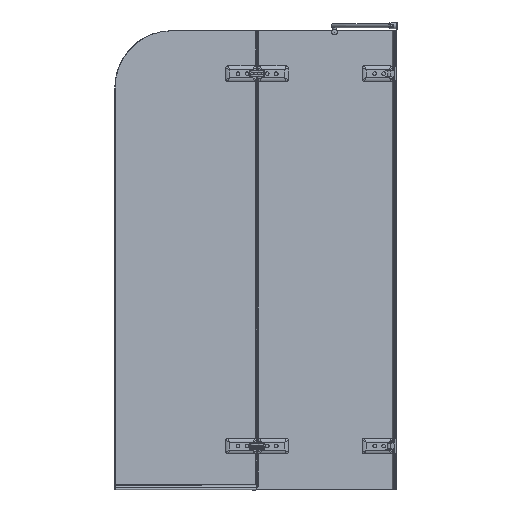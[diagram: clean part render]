
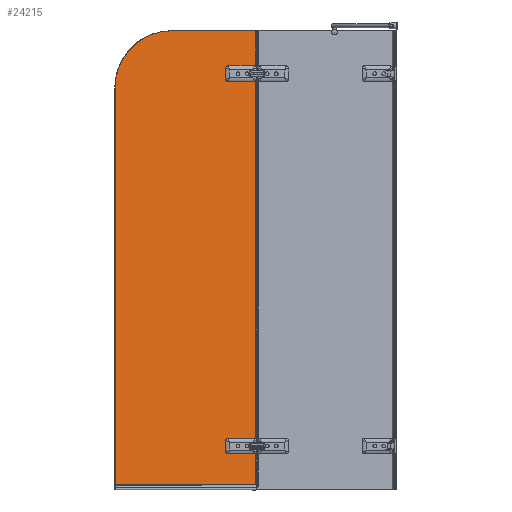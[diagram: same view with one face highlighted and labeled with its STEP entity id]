
A CAD part, left-side view. The second image highlights one B-rep face of the part: STEP entity #24215.
In plain terms, the highlighted planar face has unit normal (-0.985, -0.174, 0).
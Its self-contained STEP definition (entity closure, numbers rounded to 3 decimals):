
#850=PLANE($,#26289);
#2364=LINE($,#53870,#4467);
#2365=LINE($,#53876,#4468);
#2816=LINE($,#56373,#4919);
#2903=LINE($,#56647,#5006);
#2954=LINE($,#56814,#5057);
#2955=LINE($,#56818,#5058);
#2956=LINE($,#56821,#5059);
#2957=LINE($,#56823,#5060);
#2958=LINE($,#56827,#5061);
#2959=LINE($,#56830,#5062);
#2960=LINE($,#56832,#5063);
#2961=LINE($,#56835,#5064);
#4467=VECTOR($,#30647,1262.);
#4468=VECTOR($,#30654,116.4);
#4919=VECTOR($,#31973,131.);
#5006=VECTOR($,#32208,497.226);
#5057=VECTOR($,#32377,29.226);
#5058=VECTOR($,#32380,18.);
#5059=VECTOR($,#32383,30.747);
#5060=VECTOR($,#32384,30.747);
#5061=VECTOR($,#32387,18.);
#5062=VECTOR($,#32390,30.747);
#5063=VECTOR($,#32391,298.747);
#5064=VECTOR($,#32394,1385.4);
#5683=FACE_BOUND($,#8189,.T.);
#5684=FACE_BOUND($,#8190,.T.);
#5685=FACE_BOUND($,#8191,.T.);
#8189=EDGE_LOOP($,(#20943));
#8190=EDGE_LOOP($,(#20944));
#8191=EDGE_LOOP($,(#20945,#20946,#20947,#20948,#20949,#20950,#20951,#20952,
#20953,#20954,#20955,#20956,#20957,#20958,#20959,#20960,#20961));
#8864=CIRCLE($,#25534,6.5);
#9029=CIRCLE($,#25963,6.5);
#9152=CIRCLE($,#26290,10.);
#9153=CIRCLE($,#26291,10.);
#9154=CIRCLE($,#26292,10.);
#9155=CIRCLE($,#26293,10.);
#9156=CIRCLE($,#26294,200.);
#10616=VERTEX_POINT($,#52870);
#10784=VERTEX_POINT($,#53867);
#10785=VERTEX_POINT($,#53869);
#10786=VERTEX_POINT($,#53873);
#10787=VERTEX_POINT($,#53875);
#11043=VERTEX_POINT($,#55272);
#11223=VERTEX_POINT($,#56370);
#11224=VERTEX_POINT($,#56372);
#11297=VERTEX_POINT($,#56646);
#11331=VERTEX_POINT($,#56813);
#11332=VERTEX_POINT($,#56815);
#11333=VERTEX_POINT($,#56817);
#11334=VERTEX_POINT($,#56819);
#11335=VERTEX_POINT($,#56822);
#11336=VERTEX_POINT($,#56824);
#11337=VERTEX_POINT($,#56826);
#11338=VERTEX_POINT($,#56828);
#11339=VERTEX_POINT($,#56831);
#11340=VERTEX_POINT($,#56833);
#13454=EDGE_CURVE($,#10616,#10616,#8864,.T.);
#13726=EDGE_CURVE($,#10784,#10785,#2364,.T.);
#13729=EDGE_CURVE($,#10786,#10787,#2365,.T.);
#14133=EDGE_CURVE($,#11043,#11043,#9029,.T.);
#14421=EDGE_CURVE($,#11223,#11224,#2816,.T.);
#14539=EDGE_CURVE($,#11297,#10787,#2903,.T.);
#14615=EDGE_CURVE($,#11331,#10786,#2954,.T.);
#14616=EDGE_CURVE($,#11331,#11332,#9152,.T.);
#14617=EDGE_CURVE($,#11333,#11332,#2955,.T.);
#14618=EDGE_CURVE($,#11333,#11334,#9153,.T.);
#14619=EDGE_CURVE($,#10785,#11334,#2956,.T.);
#14620=EDGE_CURVE($,#11335,#10784,#2957,.T.);
#14621=EDGE_CURVE($,#11335,#11336,#9154,.T.);
#14622=EDGE_CURVE($,#11337,#11336,#2958,.T.);
#14623=EDGE_CURVE($,#11337,#11338,#9155,.T.);
#14624=EDGE_CURVE($,#11224,#11338,#2959,.T.);
#14625=EDGE_CURVE($,#11223,#11339,#2960,.T.);
#14626=EDGE_CURVE($,#11339,#11340,#9156,.T.);
#14627=EDGE_CURVE($,#11297,#11340,#2961,.T.);
#20943=ORIENTED_EDGE($,*,*,#13454,.F.);
#20944=ORIENTED_EDGE($,*,*,#14133,.F.);
#20945=ORIENTED_EDGE($,*,*,#14539,.T.);
#20946=ORIENTED_EDGE($,*,*,#13729,.F.);
#20947=ORIENTED_EDGE($,*,*,#14615,.F.);
#20948=ORIENTED_EDGE($,*,*,#14616,.T.);
#20949=ORIENTED_EDGE($,*,*,#14617,.F.);
#20950=ORIENTED_EDGE($,*,*,#14618,.T.);
#20951=ORIENTED_EDGE($,*,*,#14619,.F.);
#20952=ORIENTED_EDGE($,*,*,#13726,.F.);
#20953=ORIENTED_EDGE($,*,*,#14620,.F.);
#20954=ORIENTED_EDGE($,*,*,#14621,.T.);
#20955=ORIENTED_EDGE($,*,*,#14622,.F.);
#20956=ORIENTED_EDGE($,*,*,#14623,.T.);
#20957=ORIENTED_EDGE($,*,*,#14624,.F.);
#20958=ORIENTED_EDGE($,*,*,#14421,.F.);
#20959=ORIENTED_EDGE($,*,*,#14625,.T.);
#20960=ORIENTED_EDGE($,*,*,#14626,.T.);
#20961=ORIENTED_EDGE($,*,*,#14627,.F.);
#24215=ADVANCED_FACE($,(#5683,#5684,#5685),#850,.F.);
#25534=AXIS2_PLACEMENT_3D($,#52871,#30104,#30105);
#25963=AXIS2_PLACEMENT_3D($,#55273,#31404,#31405);
#26289=AXIS2_PLACEMENT_3D($,#56812,#32375,#32376);
#26290=AXIS2_PLACEMENT_3D($,#56816,#32378,#32379);
#26291=AXIS2_PLACEMENT_3D($,#56820,#32381,#32382);
#26292=AXIS2_PLACEMENT_3D($,#56825,#32385,#32386);
#26293=AXIS2_PLACEMENT_3D($,#56829,#32388,#32389);
#26294=AXIS2_PLACEMENT_3D($,#56834,#32392,#32393);
#30104=DIRECTION('center_axis',(-0.985,-0.174,0.));
#30105=DIRECTION('ref_axis',(0.174,-0.985,0.));
#30647=DIRECTION($,(0.,0.,-1.));
#30654=DIRECTION($,(0.,0.,-1.));
#31404=DIRECTION('center_axis',(-0.985,-0.174,0.));
#31405=DIRECTION('ref_axis',(0.174,-0.985,0.));
#31973=DIRECTION($,(0.,0.,-1.));
#32208=DIRECTION($,(0.174,-0.985,0.));
#32375=DIRECTION('center_axis',(0.985,0.174,0.));
#32376=DIRECTION('ref_axis',(-0.174,0.985,0.));
#32377=DIRECTION($,(0.174,-0.985,0.));
#32378=DIRECTION('center_axis',(0.985,0.174,0.));
#32379=DIRECTION('ref_axis',(-0.123,0.696,-0.707));
#32380=DIRECTION($,(0.,0.,-1.));
#32381=DIRECTION('center_axis',(0.985,0.174,0.));
#32382=DIRECTION('ref_axis',(-0.123,0.696,0.707));
#32383=DIRECTION($,(-0.174,0.985,0.));
#32384=DIRECTION($,(0.174,-0.985,0.));
#32385=DIRECTION('center_axis',(0.985,0.174,0.));
#32386=DIRECTION('ref_axis',(-0.123,0.696,-0.707));
#32387=DIRECTION($,(0.,0.,-1.));
#32388=DIRECTION('center_axis',(0.985,0.174,0.));
#32389=DIRECTION('ref_axis',(-0.123,0.696,0.707));
#32390=DIRECTION($,(-0.174,0.985,0.));
#32391=DIRECTION($,(-0.174,0.985,0.));
#32392=DIRECTION('center_axis',(-0.985,-0.174,0.));
#32393=DIRECTION('ref_axis',(-0.123,0.696,0.707));
#32394=DIRECTION($,(0.,0.,1.));
#52870=CARTESIAN_POINT('',(1131.154,1805.648,174.944));
#52871=CARTESIAN_POINT('Origin',(1132.282,1799.246,174.944));
#53867=CARTESIAN_POINT('',(1143.352,1736.468,1455.944));
#53869=CARTESIAN_POINT('',(1143.352,1736.468,193.944));
#53870=CARTESIAN_POINT($,(1143.352,1736.468,184.944));
#53873=CARTESIAN_POINT('',(1143.088,1737.966,155.944));
#53875=CARTESIAN_POINT('',(1143.088,1737.966,39.544));
#53876=CARTESIAN_POINT($,(1143.088,1737.966,164.944));
#55272=CARTESIAN_POINT('',(1131.154,1805.648,1474.944));
#55273=CARTESIAN_POINT('Origin',(1132.282,1799.246,1474.944));
#56370=CARTESIAN_POINT('',(1143.352,1736.468,1624.944));
#56372=CARTESIAN_POINT('',(1143.352,1736.468,1493.944));
#56373=CARTESIAN_POINT($,(1143.352,1736.468,1484.944));
#56646=CARTESIAN_POINT('',(1056.745,2227.638,39.544));
#56647=CARTESIAN_POINT($,(1056.745,2227.638,39.544));
#56812=CARTESIAN_POINT('Origin',(1143.569,1735.234,34.944));
#56813=CARTESIAN_POINT('',(1138.013,1766.748,155.944));
#56814=CARTESIAN_POINT($,(1139.923,1755.915,155.944));
#56815=CARTESIAN_POINT('',(1136.276,1776.596,165.944));
#56816=CARTESIAN_POINT('Origin',(1138.013,1766.748,165.944));
#56817=CARTESIAN_POINT('',(1136.276,1776.596,183.944));
#56818=CARTESIAN_POINT($,(1136.276,1776.596,114.444));
#56819=CARTESIAN_POINT('',(1138.013,1766.748,193.944));
#56820=CARTESIAN_POINT('Origin',(1138.013,1766.748,183.944));
#56821=CARTESIAN_POINT($,(1143.569,1735.234,193.944));
#56822=CARTESIAN_POINT('',(1138.013,1766.748,1455.944));
#56823=CARTESIAN_POINT($,(1139.923,1755.915,1455.944));
#56824=CARTESIAN_POINT('',(1136.276,1776.596,1465.944));
#56825=CARTESIAN_POINT('Origin',(1138.013,1766.748,1465.944));
#56826=CARTESIAN_POINT('',(1136.276,1776.596,1483.944));
#56827=CARTESIAN_POINT($,(1136.276,1776.596,764.444));
#56828=CARTESIAN_POINT('',(1138.013,1766.748,1493.944));
#56829=CARTESIAN_POINT('Origin',(1138.013,1766.748,1483.944));
#56830=CARTESIAN_POINT($,(1143.569,1735.234,1493.944));
#56831=CARTESIAN_POINT('',(1091.475,2030.676,1624.944));
#56832=CARTESIAN_POINT($,(1143.569,1735.234,1624.944));
#56833=CARTESIAN_POINT('',(1056.745,2227.638,1424.944));
#56834=CARTESIAN_POINT('Origin',(1091.475,2030.676,1424.944));
#56835=CARTESIAN_POINT($,(1056.745,2227.638,34.944));
